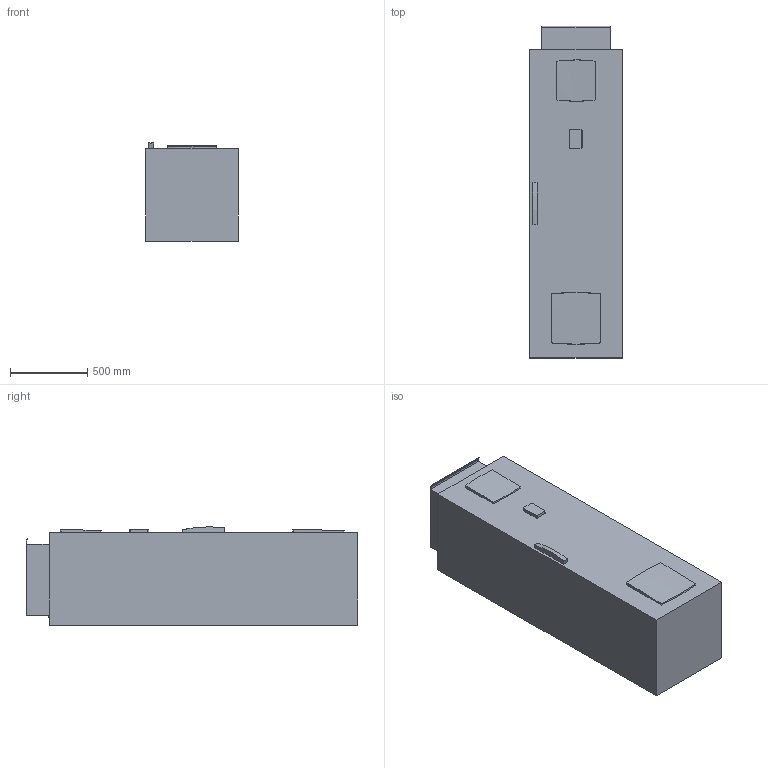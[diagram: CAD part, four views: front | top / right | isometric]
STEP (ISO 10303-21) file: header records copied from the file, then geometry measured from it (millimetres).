
FILE_DESCRIPTION(('STEP AP242'),'1');
FILE_NAME('atv630c20n4f.stp','2021-09-28T20:48:21',('TraceParts'),('TraceParts S.A.'),'Spatial InterOp 3D',' ',' ');
FILE_SCHEMA(('AP242_MANAGED_MODEL_BASED_3D_ENGINEERING_MIM_LF {1 0 10303 442 1 1 4}'));
Length unit declared in the file: millimetre
Products named in the file (1): atv630c20n4f
Bounding box: 603 x 2152.5 x 638.27 mm (x, y, z)
Volume: 760310074 mm3; surface area: 5922464.8 mm2
Topology: 1 solids, 1 shells, 44 faces, 114 edges, 76 vertices
Faces by surface type: plane 30, cylinder 7, bspline 4, revolution 3
Entity records: 1615 total; most frequent: CARTESIAN_POINT 566, ORIENTED_EDGE 228, DIRECTION 179, EDGE_CURVE 114, VERTEX_POINT 76, LINE 74, VECTOR 74, AXIS2_PLACEMENT_3D 51
